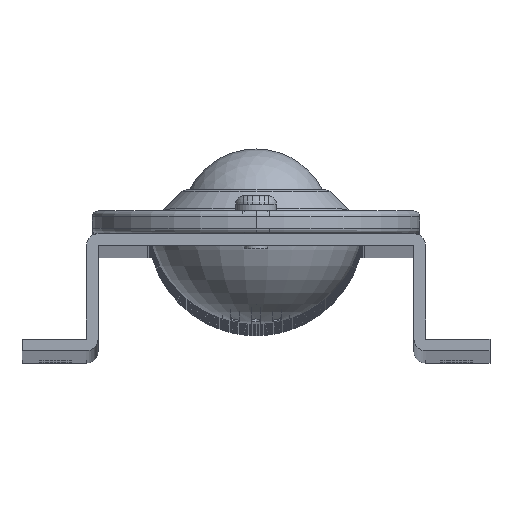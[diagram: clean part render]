
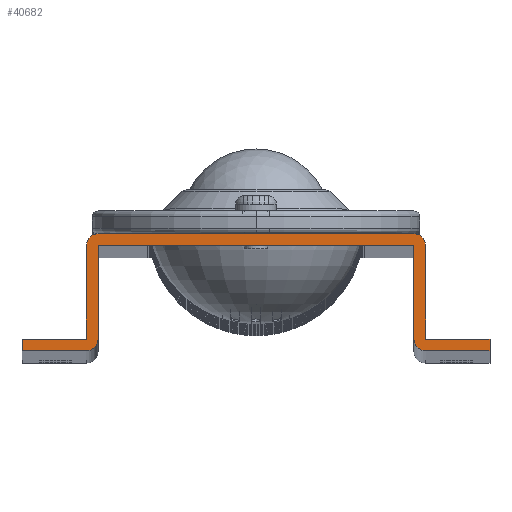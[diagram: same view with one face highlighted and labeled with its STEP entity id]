
A CAD part, top view. The second image highlights one B-rep face of the part: STEP entity #40682.
In plain terms, the highlighted planar face has unit normal (0, 0, 1).
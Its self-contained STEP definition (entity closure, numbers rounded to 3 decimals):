
#185 = CARTESIAN_POINT ( 'NONE',  ( 27., 0., 0. ) ) ;
#338 = AXIS2_PLACEMENT_3D ( 'NONE', #41401, #22255, #2998 ) ;
#396 = VERTEX_POINT ( 'NONE', #14146 ) ;
#667 = CARTESIAN_POINT ( 'NONE',  ( 29., 18., 0. ) ) ;
#870 = VERTEX_POINT ( 'NONE', #13138 ) ;
#1150 = EDGE_CURVE ( 'NONE', #396, #13671, #27624, .T. ) ;
#1302 = VECTOR ( 'NONE', #30184, 1000. ) ;
#1610 = EDGE_CURVE ( 'NONE', #38312, #14444, #23090, .T. ) ;
#1874 = CARTESIAN_POINT ( 'NONE',  ( -29., 2., 0. ) ) ;
#1910 = CARTESIAN_POINT ( 'NONE',  ( 40., 2., 0. ) ) ;
#2050 = DIRECTION ( 'NONE',  ( -1., 0., 0. ) ) ;
#2233 = ORIENTED_EDGE ( 'NONE', *, *, #24247, .T. ) ;
#2316 = LINE ( 'NONE', #39677, #1302 ) ;
#2405 = DIRECTION ( 'NONE',  ( -1., 0., 0. ) ) ;
#2670 = CARTESIAN_POINT ( 'NONE',  ( -27., 18., 0. ) ) ;
#2998 = DIRECTION ( 'NONE',  ( -1., 0., 0. ) ) ;
#3033 = CARTESIAN_POINT ( 'NONE',  ( -29., 0., 0. ) ) ;
#3478 = DIRECTION ( 'NONE',  ( 0., -1., 0. ) ) ;
#4212 = EDGE_CURVE ( 'NONE', #25402, #18894, #41461, .T. ) ;
#4223 = AXIS2_PLACEMENT_3D ( 'NONE', #8953, #31459, #12173 ) ;
#4419 = EDGE_CURVE ( 'NONE', #14066, #396, #19383, .T. ) ;
#4699 = EDGE_CURVE ( 'NONE', #18894, #38312, #36975, .T. ) ;
#5034 = EDGE_CURVE ( 'NONE', #14409, #5883, #26929, .T. ) ;
#5117 = CARTESIAN_POINT ( 'NONE',  ( -29., 2., 0. ) ) ;
#5285 = CARTESIAN_POINT ( 'NONE',  ( -27., 18., 0. ) ) ;
#5393 = EDGE_CURVE ( 'NONE', #28928, #13023, #22361, .T. ) ;
#5424 = ORIENTED_EDGE ( 'NONE', *, *, #1610, .T. ) ;
#5883 = VERTEX_POINT ( 'NONE', #3033 ) ;
#5910 = DIRECTION ( 'NONE',  ( -1., 0., 0. ) ) ;
#5960 = AXIS2_PLACEMENT_3D ( 'NONE', #2670, #25201, #5910 ) ;
#6645 = DIRECTION ( 'NONE',  ( 0., -1., 0. ) ) ;
#7020 = CARTESIAN_POINT ( 'NONE',  ( 27., 20., 0. ) ) ;
#7441 = VECTOR ( 'NONE', #25756, 1000. ) ;
#7582 = CARTESIAN_POINT ( 'NONE',  ( 29., 20., 0. ) ) ;
#7597 = FACE_OUTER_BOUND ( 'NONE', #10872, .T. ) ;
#7835 = EDGE_CURVE ( 'NONE', #19793, #28928, #26439, .T. ) ;
#8182 = ORIENTED_EDGE ( 'NONE', *, *, #41014, .T. ) ;
#8953 = CARTESIAN_POINT ( 'NONE',  ( -29., 2., 0. ) ) ;
#9473 = LINE ( 'NONE', #9706, #7441 ) ;
#9706 = CARTESIAN_POINT ( 'NONE',  ( -40., 2., 0. ) ) ;
#9815 = VECTOR ( 'NONE', #23227, 1000. ) ;
#10722 = ORIENTED_EDGE ( 'NONE', *, *, #14901, .T. ) ;
#10872 = EDGE_LOOP ( 'NONE', ( #10722, #41516, #2233, #21029, #33116, #5424, #18661, #40589, #14396, #20009, #40886, #32320, #24410, #8182, #30520, #40351 ) ) ;
#10994 = VERTEX_POINT ( 'NONE', #27362 ) ;
#11663 = CARTESIAN_POINT ( 'NONE',  ( 29., 0., 0. ) ) ;
#11677 = DIRECTION ( 'NONE',  ( 0., -1., 0. ) ) ;
#12173 = DIRECTION ( 'NONE',  ( -1., 0., 0. ) ) ;
#12932 = DIRECTION ( 'NONE',  ( -1., 0., 0. ) ) ;
#13023 = VERTEX_POINT ( 'NONE', #37049 ) ;
#13138 = CARTESIAN_POINT ( 'NONE',  ( -40., 2., 0. ) ) ;
#13627 = CARTESIAN_POINT ( 'NONE',  ( -27., 0., 0. ) ) ;
#13671 = VERTEX_POINT ( 'NONE', #1874 ) ;
#13735 = CIRCLE ( 'NONE', #338, 2. ) ;
#14066 = VERTEX_POINT ( 'NONE', #17422 ) ;
#14146 = CARTESIAN_POINT ( 'NONE',  ( -29., 18., 0. ) ) ;
#14396 = ORIENTED_EDGE ( 'NONE', *, *, #4419, .T. ) ;
#14409 = VERTEX_POINT ( 'NONE', #26177 ) ;
#14444 = VERTEX_POINT ( 'NONE', #667 ) ;
#14484 = VECTOR ( 'NONE', #20663, 1000. ) ;
#14901 = EDGE_CURVE ( 'NONE', #13023, #10994, #39987, .T. ) ;
#15798 = EDGE_CURVE ( 'NONE', #34572, #14066, #2316, .T. ) ;
#15867 = VECTOR ( 'NONE', #33470, 1000. ) ;
#15897 = EDGE_CURVE ( 'NONE', #14444, #34572, #23970, .T. ) ;
#16485 = VERTEX_POINT ( 'NONE', #11663 ) ;
#17422 = CARTESIAN_POINT ( 'NONE',  ( -27., 20., 0. ) ) ;
#17842 = VECTOR ( 'NONE', #24571, 1000. ) ;
#18019 = EDGE_CURVE ( 'NONE', #10994, #16485, #13735, .T. ) ;
#18253 = LINE ( 'NONE', #21745, #34362 ) ;
#18661 = ORIENTED_EDGE ( 'NONE', *, *, #15897, .T. ) ;
#18850 = VECTOR ( 'NONE', #2405, 1000. ) ;
#18894 = VERTEX_POINT ( 'NONE', #1910 ) ;
#19383 = CIRCLE ( 'NONE', #5960, 2. ) ;
#19793 = VERTEX_POINT ( 'NONE', #27174 ) ;
#20009 = ORIENTED_EDGE ( 'NONE', *, *, #1150, .T. ) ;
#20663 = DIRECTION ( 'NONE',  ( 0., 1., 0. ) ) ;
#21029 = ORIENTED_EDGE ( 'NONE', *, *, #4212, .T. ) ;
#21304 = DIRECTION ( 'NONE',  ( 0., 0., 1. ) ) ;
#21745 = CARTESIAN_POINT ( 'NONE',  ( 40., 0., 0. ) ) ;
#21896 = CARTESIAN_POINT ( 'NONE',  ( 29., 2., 0. ) ) ;
#22255 = DIRECTION ( 'NONE',  ( 0., 0., 1. ) ) ;
#22361 = LINE ( 'NONE', #35531, #38395 ) ;
#22527 = PLANE ( 'NONE',  #25243 ) ;
#22699 = AXIS2_PLACEMENT_3D ( 'NONE', #40471, #21304, #2050 ) ;
#22767 = CIRCLE ( 'NONE', #4223, 2. ) ;
#23090 = LINE ( 'NONE', #7582, #14484 ) ;
#23227 = DIRECTION ( 'NONE',  ( 1., 0., 0. ) ) ;
#23935 = CARTESIAN_POINT ( 'NONE',  ( 40., 2., 0. ) ) ;
#23970 = CIRCLE ( 'NONE', #22699, 2. ) ;
#24096 = VECTOR ( 'NONE', #6645, 1000. ) ;
#24247 = EDGE_CURVE ( 'NONE', #16485, #25402, #18253, .T. ) ;
#24410 = ORIENTED_EDGE ( 'NONE', *, *, #5034, .T. ) ;
#24571 = DIRECTION ( 'NONE',  ( 0., 1., 0. ) ) ;
#24998 = DIRECTION ( 'NONE',  ( 1., 0., 0. ) ) ;
#25201 = DIRECTION ( 'NONE',  ( 0., 0., 1. ) ) ;
#25243 = AXIS2_PLACEMENT_3D ( 'NONE', #41671, #32208, #12932 ) ;
#25402 = VERTEX_POINT ( 'NONE', #31360 ) ;
#25756 = DIRECTION ( 'NONE',  ( -1., 0., 0. ) ) ;
#26177 = CARTESIAN_POINT ( 'NONE',  ( -40., 0., 0. ) ) ;
#26439 = LINE ( 'NONE', #5285, #17842 ) ;
#26629 = VECTOR ( 'NONE', #11677, 1000. ) ;
#26929 = LINE ( 'NONE', #13627, #9815 ) ;
#27174 = CARTESIAN_POINT ( 'NONE',  ( -27., 2., 0. ) ) ;
#27362 = CARTESIAN_POINT ( 'NONE',  ( 27., 2., 0. ) ) ;
#27624 = LINE ( 'NONE', #5117, #26629 ) ;
#28003 = CARTESIAN_POINT ( 'NONE',  ( 29., 2., 0. ) ) ;
#28914 = EDGE_CURVE ( 'NONE', #13671, #870, #9473, .T. ) ;
#28928 = VERTEX_POINT ( 'NONE', #32211 ) ;
#29004 = CARTESIAN_POINT ( 'NONE',  ( -40., 0., 0. ) ) ;
#30184 = DIRECTION ( 'NONE',  ( -1., 0., 0. ) ) ;
#30520 = ORIENTED_EDGE ( 'NONE', *, *, #7835, .T. ) ;
#31360 = CARTESIAN_POINT ( 'NONE',  ( 40., 0., 0. ) ) ;
#31459 = DIRECTION ( 'NONE',  ( 0., 0., 1. ) ) ;
#31519 = VECTOR ( 'NONE', #3478, 1000. ) ;
#32166 = DIRECTION ( 'NONE',  ( 1., 0., 0. ) ) ;
#32208 = DIRECTION ( 'NONE',  ( 0., 0., -1. ) ) ;
#32211 = CARTESIAN_POINT ( 'NONE',  ( -27., 18., 0. ) ) ;
#32320 = ORIENTED_EDGE ( 'NONE', *, *, #32400, .T. ) ;
#32400 = EDGE_CURVE ( 'NONE', #870, #14409, #32626, .T. ) ;
#32626 = LINE ( 'NONE', #29004, #24096 ) ;
#33116 = ORIENTED_EDGE ( 'NONE', *, *, #4699, .T. ) ;
#33470 = DIRECTION ( 'NONE',  ( 0., 1., 0. ) ) ;
#34362 = VECTOR ( 'NONE', #24998, 1000. ) ;
#34572 = VERTEX_POINT ( 'NONE', #7020 ) ;
#35531 = CARTESIAN_POINT ( 'NONE',  ( 27., 18., 0. ) ) ;
#36975 = LINE ( 'NONE', #28003, #18850 ) ;
#37049 = CARTESIAN_POINT ( 'NONE',  ( 27., 18., 0. ) ) ;
#38312 = VERTEX_POINT ( 'NONE', #21896 ) ;
#38395 = VECTOR ( 'NONE', #32166, 1000. ) ;
#39677 = CARTESIAN_POINT ( 'NONE',  ( -29., 20., 0. ) ) ;
#39987 = LINE ( 'NONE', #185, #31519 ) ;
#40351 = ORIENTED_EDGE ( 'NONE', *, *, #5393, .T. ) ;
#40471 = CARTESIAN_POINT ( 'NONE',  ( 27., 18., 0. ) ) ;
#40589 = ORIENTED_EDGE ( 'NONE', *, *, #15798, .T. ) ;
#40682 = ADVANCED_FACE ( 'NONE', ( #7597 ), #22527, .F. ) ;
#40886 = ORIENTED_EDGE ( 'NONE', *, *, #28914, .T. ) ;
#41014 = EDGE_CURVE ( 'NONE', #5883, #19793, #22767, .T. ) ;
#41401 = CARTESIAN_POINT ( 'NONE',  ( 29., 2., 0. ) ) ;
#41461 = LINE ( 'NONE', #23935, #15867 ) ;
#41516 = ORIENTED_EDGE ( 'NONE', *, *, #18019, .T. ) ;
#41671 = CARTESIAN_POINT ( 'NONE',  ( 0., 0., 0. ) ) ;
